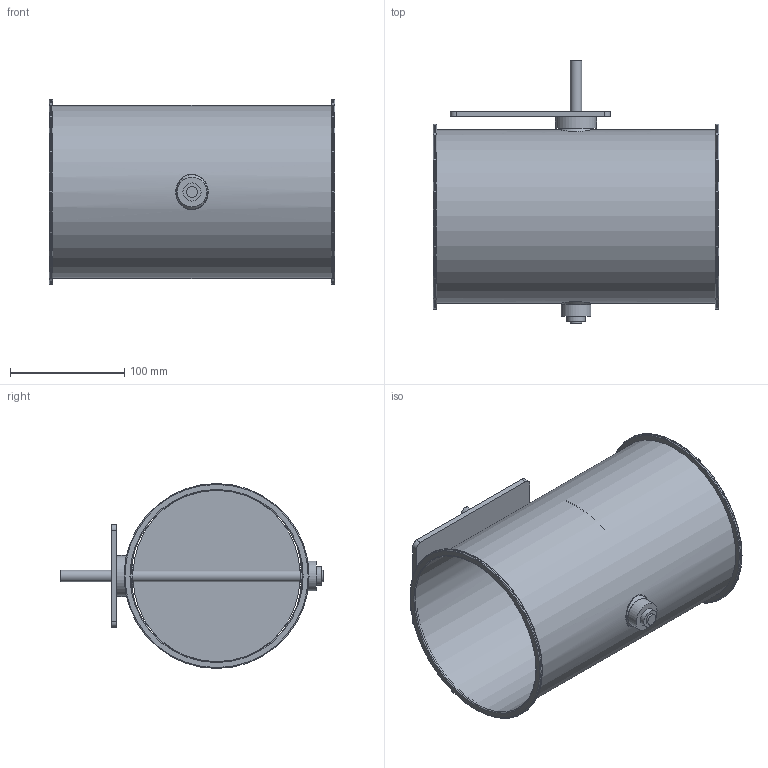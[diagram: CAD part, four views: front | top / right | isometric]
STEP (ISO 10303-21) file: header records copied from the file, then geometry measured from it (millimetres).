
FILE_DESCRIPTION(/* description */ (''),/* implementation_level */ '2;1');
FILE_NAME(/* name */ 'EA124-80B__150_L250_Belimo_Typ_NM.stp',/* time_stamp */ '2017-12-06T12:07:49+01:00',/* author */ (''),/* organization */ (''),/* preprocessor_version */ 'ST-DEVELOPER v11',/* originating_system */ 'SIEMENS UGS NX 6.0',/* authorisation */ '');
FILE_SCHEMA (('CONFIG_CONTROL_DESIGN'));
Length unit declared in the file: millimetre
Products named in the file (1): gars18E2j1xi
Bounding box: 250 x 231 x 162 mm (x, y, z)
Volume: 224758.6 mm3; surface area: 326273.9 mm2
Topology: 8 solids, 8 shells, 76 faces, 161 edges, 109 vertices
Faces by surface type: plane 30, cylinder 28, torus 10, cone 4, bspline 4
Full cylindrical faces by diameter (mm): 4.1 x4, 10 x3, 15 x3, 15.85 x2, 16 x2, 24 x2, 26 x1, 36 x1, 150 x1, 151.6 x1, 162 x2
Entity records: 2388 total; most frequent: CARTESIAN_POINT 865, DIRECTION 310, ORIENTED_EDGE 204, EDGE_LOOP 148, AXIS2_PLACEMENT_3D 143, FACE_BOUND 134, EDGE_CURVE 102, VERTEX_POINT 90
